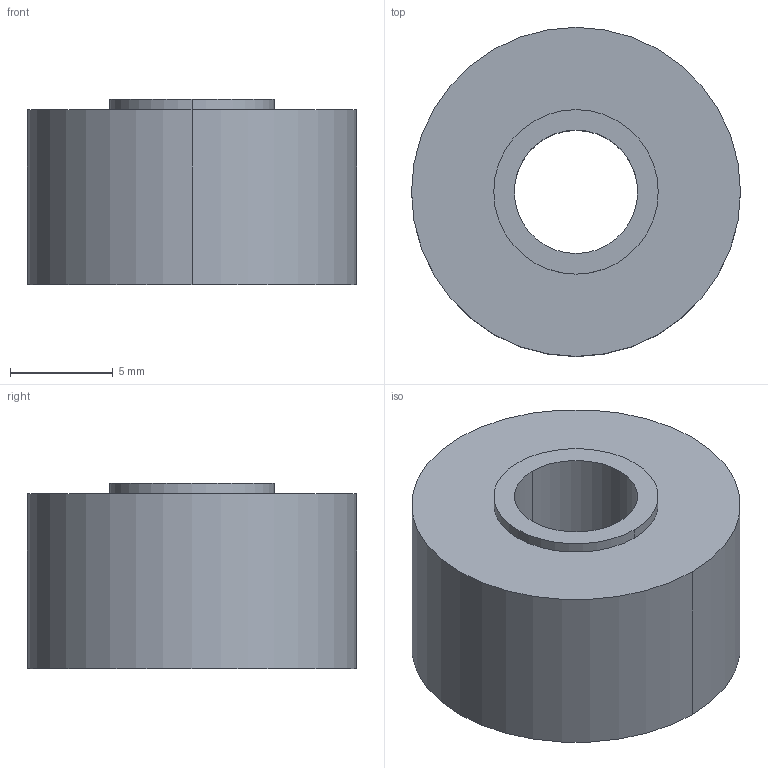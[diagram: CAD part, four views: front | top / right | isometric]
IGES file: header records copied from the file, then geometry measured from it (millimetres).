
Start section:  PTC IGES file: 46325.igs
Global section: file name: 46325.igs; native system: Pro/ENGINEER by Parametric Technology Corporation; preprocessor: 2005030; author: carefree; organization: Unknown; date: 101108.125242; units: millimetre
Bounding box: 16 x 16 x 9 mm (x, y, z)
Surface area: 955 mm2 (no closed solid volume)
Topology: 0 solids, 0 shells, 9 faces, 36 edges, 36 vertices
Faces by surface type: revolution 6, bspline 3
